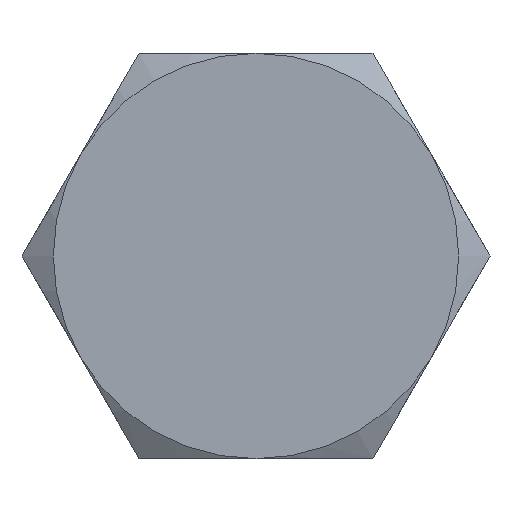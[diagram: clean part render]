
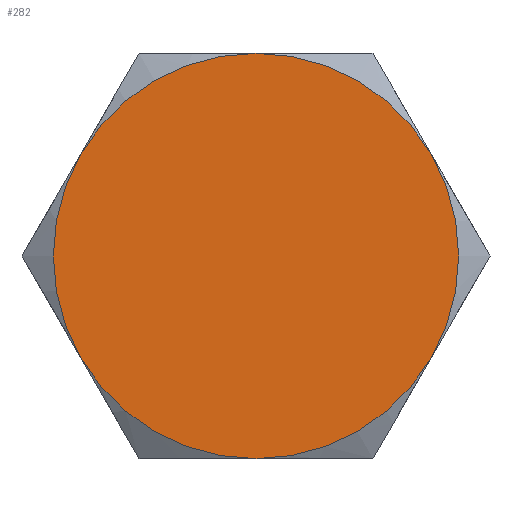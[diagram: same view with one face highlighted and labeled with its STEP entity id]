
A CAD part, left-side view. The second image highlights one B-rep face of the part: STEP entity #282.
In plain terms, the highlighted planar face has unit normal (-1, 0, 0).
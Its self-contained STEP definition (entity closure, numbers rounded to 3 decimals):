
#43=PLANE('',#336);
#90=FACE_OUTER_BOUND('',#109,.T.);
#109=EDGE_LOOP('',(#258,#259,#260,#261,#262,#263));
#117=CIRCLE('',#319,6.5);
#118=CIRCLE('',#321,6.5);
#119=CIRCLE('',#323,6.5);
#120=CIRCLE('',#325,6.5);
#121=CIRCLE('',#327,6.5);
#122=CIRCLE('',#329,6.5);
#136=VERTEX_POINT('',#450);
#137=VERTEX_POINT('',#454);
#139=VERTEX_POINT('',#461);
#141=VERTEX_POINT('',#471);
#143=VERTEX_POINT('',#484);
#145=VERTEX_POINT('',#494);
#164=EDGE_CURVE('',#136,#137,#117,.T.);
#167=EDGE_CURVE('',#139,#136,#118,.T.);
#170=EDGE_CURVE('',#141,#139,#119,.T.);
#172=EDGE_CURVE('',#143,#141,#120,.T.);
#175=EDGE_CURVE('',#145,#143,#121,.T.);
#178=EDGE_CURVE('',#137,#145,#122,.T.);
#258=ORIENTED_EDGE('',*,*,#178,.T.);
#259=ORIENTED_EDGE('',*,*,#175,.T.);
#260=ORIENTED_EDGE('',*,*,#172,.T.);
#261=ORIENTED_EDGE('',*,*,#170,.T.);
#262=ORIENTED_EDGE('',*,*,#167,.T.);
#263=ORIENTED_EDGE('',*,*,#164,.T.);
#282=ADVANCED_FACE('',(#90),#43,.F.);
#319=AXIS2_PLACEMENT_3D('',#458,#373,#374);
#321=AXIS2_PLACEMENT_3D('',#468,#377,#378);
#323=AXIS2_PLACEMENT_3D('',#478,#381,#382);
#325=AXIS2_PLACEMENT_3D('',#485,#385,#386);
#327=AXIS2_PLACEMENT_3D('',#495,#389,#390);
#329=AXIS2_PLACEMENT_3D('',#504,#393,#394);
#336=AXIS2_PLACEMENT_3D('',#520,#413,#414);
#373=DIRECTION('center_axis',(-1.,0.,0.));
#374=DIRECTION('ref_axis',(0.,1.,0.));
#377=DIRECTION('center_axis',(-1.,0.,0.));
#378=DIRECTION('ref_axis',(0.,1.,0.));
#381=DIRECTION('center_axis',(-1.,0.,0.));
#382=DIRECTION('ref_axis',(0.,1.,0.));
#385=DIRECTION('center_axis',(-1.,0.,0.));
#386=DIRECTION('ref_axis',(0.,1.,0.));
#389=DIRECTION('center_axis',(-1.,0.,0.));
#390=DIRECTION('ref_axis',(0.,1.,0.));
#393=DIRECTION('center_axis',(-1.,0.,0.));
#394=DIRECTION('ref_axis',(0.,1.,0.));
#413=DIRECTION('center_axis',(1.,0.,0.));
#414=DIRECTION('ref_axis',(0.,0.,-1.));
#450=CARTESIAN_POINT('',(-5.3,5.629,3.25));
#454=CARTESIAN_POINT('',(-5.3,5.629,-3.25));
#458=CARTESIAN_POINT('Origin',(-5.3,0.,0.));
#461=CARTESIAN_POINT('',(-5.3,0.,6.5));
#468=CARTESIAN_POINT('Origin',(-5.3,0.,0.));
#471=CARTESIAN_POINT('',(-5.3,-5.629,3.25));
#478=CARTESIAN_POINT('Origin',(-5.3,0.,0.));
#484=CARTESIAN_POINT('',(-5.3,-5.629,-3.25));
#485=CARTESIAN_POINT('Origin',(-5.3,0.,0.));
#494=CARTESIAN_POINT('',(-5.3,0.,-6.5));
#495=CARTESIAN_POINT('Origin',(-5.3,0.,0.));
#504=CARTESIAN_POINT('Origin',(-5.3,0.,0.));
#520=CARTESIAN_POINT('Origin',(-5.3,0.,0.));
